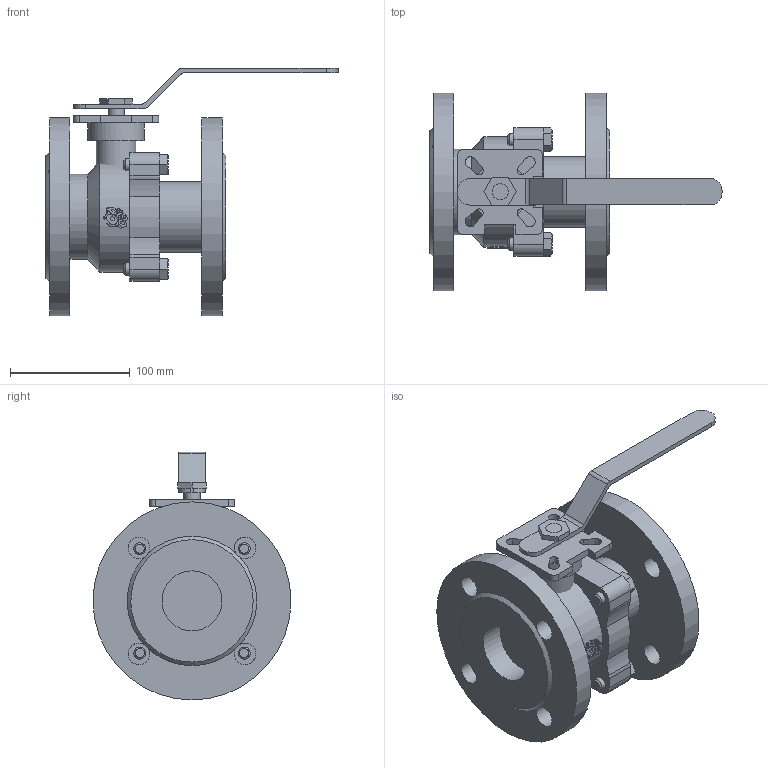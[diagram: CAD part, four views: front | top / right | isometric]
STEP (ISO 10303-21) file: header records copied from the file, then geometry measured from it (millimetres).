
FILE_DESCRIPTION(('STEP AP203'), '1');
FILE_NAME('3D_7528-050-40_2', '', ('UNSPECIFIED'), ('UNSPECIFIED'), 'C3D Converter', 'C3D Toolkit', '');
FILE_SCHEMA(('CONFIG_CONTROL_DESIGN'));
Length unit declared in the file: millimetre
Bounding box: 243.5 x 165 x 206.5 mm (x, y, z)
Volume: 1523516.2 mm3; surface area: 225184.9 mm2
Topology: 22 solids, 22 shells, 999 faces, 2896 edges, 1940 vertices
Faces by surface type: plane 920, cylinder 64, cone 11, torus 4
Full cylindrical faces by diameter (mm): 10 x4, 13.5 x1, 18 x8, 33 x1, 47 x1, 50 x2, 59 x1, 71 x1, 92 x1, 165 x2
Entity records: 42036 total; most frequent: CARTESIAN_POINT 9729, ORIENTED_EDGE 5718, DIRECTION 4211, EDGE_CURVE 2859, VERTEX_POINT 1940, LINE 1843, VECTOR 1843, AXIS2_PLACEMENT_3D 1184
